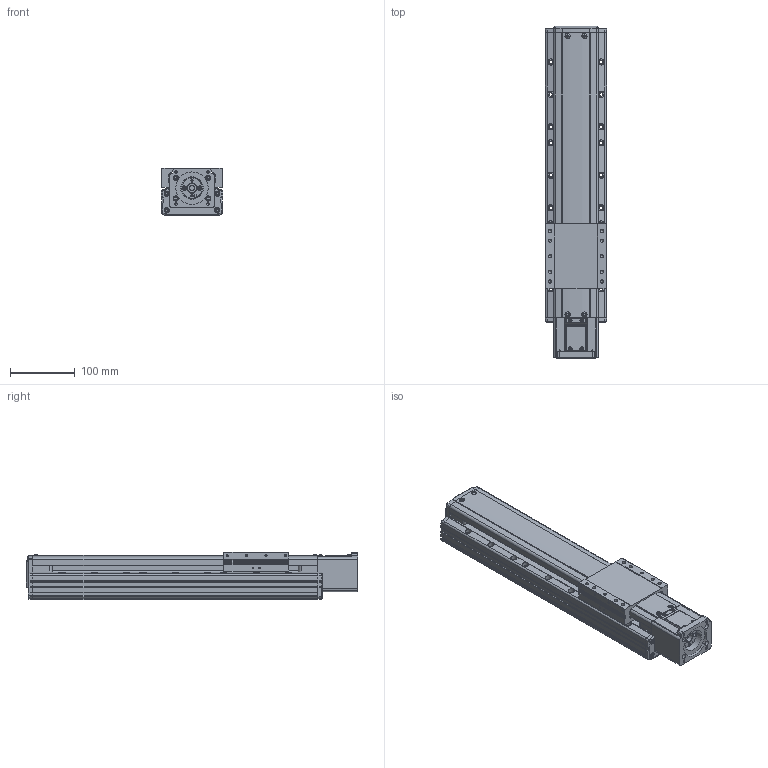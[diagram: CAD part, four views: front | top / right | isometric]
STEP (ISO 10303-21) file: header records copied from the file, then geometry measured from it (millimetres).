
FILE_DESCRIPTION(('STEP AP214'),'1');
FILE_NAME('Z:/Web/3D/PSA95/STP/PSA95-250 (3D)/PSA95ㅁㅁ-250S.stp','2014-07-02T23:59:40',(' '),(' '),'Spatial InterOp 3D',' ',' ');
FILE_SCHEMA(('automotive_design'));
Length unit declared in the file: millimetre
Products named in the file (35): BASE; RRCV; 스크루 : Round - M4.0 x 10.0; 너트 : Square - M10.0 x 220.7419; RR1500; FRCV-090; 스크루 : Round - M4.0 x 6.0; SLBL-PA90; SSFX-SAN65; CPLCV-SAN65; 스크루 : Round - M3.0 x 6.0; MTHZ-PA70/90-S60A-3; 스크루 : Socket - M4.0 x 20.0; NONE
Bounding box: 95 x 512.5 x 74 mm (x, y, z)
Volume: 2674159.2 mm3; surface area: 344021.7 mm2
Topology: 35 solids, 69 shells, 3051 faces, 7824 edges, 4928 vertices
Faces by surface type: plane 1458, cylinder 974, cone 383, torus 158, sphere 46, bspline 32
Entity records: 120296 total; most frequent: CARTESIAN_POINT 19875, DIRECTION 16372, ORIENTED_EDGE 15360, EDGE_CURVE 7680, AXIS2_PLACEMENT_3D 5867, VERTEX_POINT 4928, LINE 4638, VECTOR 4638
